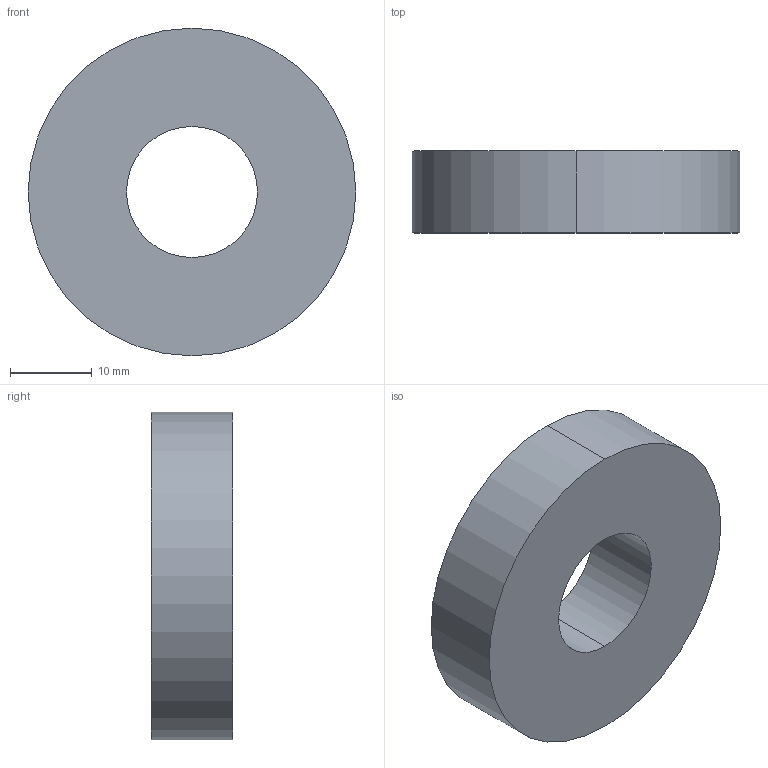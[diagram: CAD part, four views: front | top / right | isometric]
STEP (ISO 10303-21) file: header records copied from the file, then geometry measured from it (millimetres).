
FILE_DESCRIPTION (( 'STEP AP214' ), '1' );
FILE_NAME ('YIS51D-VS-08 Âòóëêà îïîðíàÿ Ì8õ20.STEP', '2025-08-19T13:01:59', ( '' ), ( '' ), 'SwSTEP 2.0', 'SolidWorks 2023', '' );
FILE_SCHEMA (( 'AUTOMOTIVE_DESIGN' ));
Length unit declared in the file: millimetre
Products named in the file (1): YIS51D-VS-08 Втулка опорная М8х20
Bounding box: 40 x 10 x 40 mm (x, y, z)
Volume: 10555.8 mm3; surface area: 3870.4 mm2
Topology: 1 solids, 1 shells, 6 faces, 12 edges, 8 vertices
Faces by surface type: cylinder 4, plane 2
Entity records: 191 total; most frequent: DIRECTION 34, CARTESIAN_POINT 27, ORIENTED_EDGE 24, AXIS2_PLACEMENT_3D 15, EDGE_CURVE 12, EDGE_LOOP 8, CIRCLE 8, VERTEX_POINT 8
